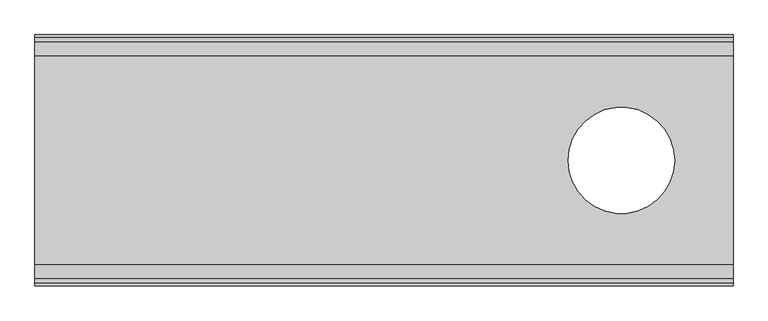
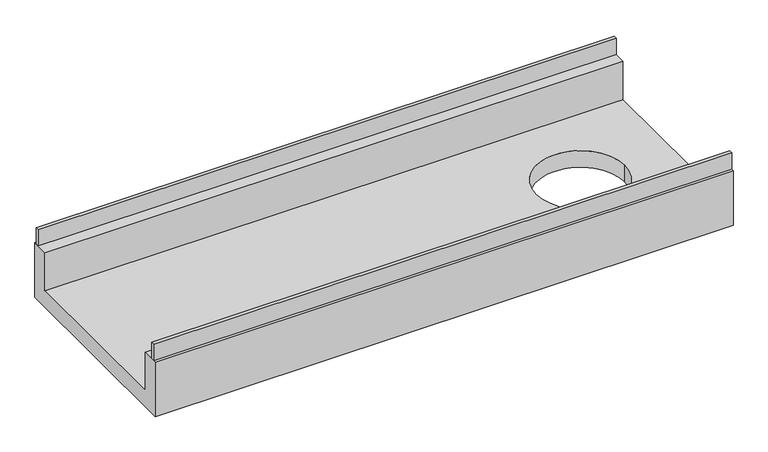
"""IFC4 building model written with IfcOpenShell, lengths in millimetres: sanitary terminal geometry, PF_ST_Slabdrain_H300K & H300KS_channels_USA_ACO : H300KS-13 Constant Depth Channel with SS edge rail."""

from ifc_helpers import new_model, si_unit, frame, origin, place, context, project, spatial, polyline, circle_curve, outline, extrude, source, transform, mapped, element, save
from ifc_brep_helpers import plane_surface, revolved_surface, advanced_brep


def sanitary_terminal_bc41e0c3(model_context):
    return source(origin(), model_context, "Body", "SolidModel", [
        advanced_brep(
        [(-605.6176554, 180.0, -30.0), (-605.6176554, 150.0, -30.0), (-605.6176554, 150.0, -100.0), (-605.6176554, -150.0, -100.0), (-605.6176554, -150.0, -30.0), (-605.6176554, -180.0, -30.0), (-605.6176554, -180.0, -130.0), (-605.6176554, 180.0, -130.0), (-1605.6176554, 180.0, -30.0), (-1605.6176554, 180.0, -130.0), (-1605.6176554, -180.0, -130.0), (-1605.6176554, -180.0, -30.0), (-1605.6176554, -150.0, -30.0), (-1605.6176554, -150.0, -100.0), (-1605.6176554, 150.0, -100.0), (-1605.6176554, 150.0, -30.0), (-841.8176554, 0.0, -130.0), (-689.4176554, 0.0, -130.0), (-689.4176554, 0.0, -100.0), (-841.8176554, 0.0, -100.0)],
        [
            (0, 1),
            (1, 2),
            (2, 3),
            (3, 4),
            (4, 5),
            (5, 6),
            (6, 7),
            (7, 0),
            (8, 9),
            (9, 10),
            (10, 11),
            (11, 12),
            (12, 13),
            (13, 14),
            (14, 15),
            (15, 8),
            (0, 8),
            (15, 1),
            (4, 12),
            (11, 5),
            (10, 6),
            (9, 7),
            (16, 17, circle_curve(frame((-765.6176554, 0.0, -130.0), z_axis=(0.0, 0.0, 1.0), x_axis=(1.0, 0.0, 0.0)), 76.2)),
            (17, 16, circle_curve(frame((-765.6176554, 0.0, -130.0), z_axis=(0.0, 0.0, 1.0), x_axis=(1.0, 0.0, 0.0)), 76.2)),
            (14, 2),
            (13, 3),
            (18, 19, circle_curve(frame((-765.6176554, 0.0, -100.0), z_axis=(0.0, 0.0, -1.0), x_axis=(1.0, 0.0, 0.0)), 76.2)),
            (19, 18, circle_curve(frame((-765.6176554, 0.0, -100.0), z_axis=(0.0, 0.0, -1.0), x_axis=(1.0, 0.0, 0.0)), 76.2)),
            (18, 17),
            (16, 19),
        ],
        [
            plane_surface(frame((-605.6176554, 0.0, -72.5), z_axis=(1.0, 0.0, 0.0), x_axis=(0.0, -1.0, 0.0))),
            plane_surface(frame((-1605.6176554, 0.0, -72.5), z_axis=(-1.0, 0.0, 0.0), x_axis=(0.0, -1.0, 0.0))),
            plane_surface(frame((-1605.6176554, 165.0, -30.0), z_axis=(0.0, 0.0, 1.0), x_axis=(0.0, -1.0, 0.0))),
            plane_surface(frame((-1605.6176554, -165.0, -30.0), z_axis=(0.0, 0.0, 1.0), x_axis=(0.0, -1.0, 0.0))),
            plane_surface(frame((-1605.6176554, -180.0, -80.0), z_axis=(0.0, -1.0, 0.0), x_axis=(0.0, 0.0, -1.0))),
            plane_surface(frame((-1605.6176554, 0.0, -130.0), z_axis=(0.0, 0.0, -1.0), x_axis=(0.0, 1.0, 0.0))),
            plane_surface(frame((-1605.6176554, 180.0, -80.0), z_axis=(0.0, 1.0, 0.0), x_axis=(0.0, 0.0, 1.0))),
            plane_surface(frame((-1605.6176554, 150.0, -65.0), z_axis=(0.0, -1.0, 0.0), x_axis=(0.0, 0.0, -1.0))),
            plane_surface(frame((-1605.6176554, 0.0, -100.0), z_axis=(0.0, 0.0, 1.0), x_axis=(0.0, -1.0, 0.0))),
            plane_surface(frame((-1605.6176554, -150.0, -65.0), z_axis=(0.0, 1.0, 0.0), x_axis=(0.0, 0.0, 1.0))),
            revolved_surface(polyline([(-689.4176554, 0.0, -130.0), (-689.4176554, 0.0, -100.0)]), (-765.6176554, 0.0, 0.0), (0.0, 0.0, -1.0)),
        ],
        [
            (0, [[1, 2, 3, 4, 5, 6, 7, 8]]),
            (1, [[9, 10, 11, 12, 13, 14, 15, 16]]),
            (2, [[-1, 17, -16, 18]]),
            (3, [[-5, 19, -12, 20]]),
            (4, [[-6, -20, -11, 21]]),
            (5, [[-7, -21, -10, 22], [23, 24]]),
            (6, [[-8, -22, -9, -17]]),
            (7, [[-2, -18, -15, 25]]),
            (8, [[-3, -25, -14, 26], [27, 28]]),
            (9, [[-4, -26, -13, -19]]),
            (10, [[29, -23, 30, -27]]),
            (10, [[-29, -28, -30, -24]]),
        ],
    ),
        extrude(outline(polyline([(-605.6176554, 176.0), (-605.6176554, 170.0), (-1605.6176554, 170.0), (-1605.6176554, 176.0), (-605.6176554, 176.0)])), frame((0.0, 0.0, -30.0), z_axis=(0.0, 0.0, 1.0), x_axis=(1.0, 0.0, 0.0)), (0.0, 0.0, 1.0), 30.0),
        extrude(outline(polyline([(-605.6176554, -170.0), (-605.6176554, -176.0), (-1605.6176554, -176.0), (-1605.6176554, -170.0), (-605.6176554, -170.0)])), frame((0.0, 0.0, -30.0), z_axis=(0.0, 0.0, 1.0), x_axis=(1.0, 0.0, 0.0)), (0.0, 0.0, 1.0), 30.0),
    ])


if __name__ == "__main__":
    model = new_model("IFC4")
    model_context = context("Model", 3, world=origin())
    ifc_project = project(units=[si_unit("LENGTHUNIT", "METRE", prefix="MILLI")], contexts=[model_context])
    site = spatial("IfcSite", under=ifc_project)
    building = spatial("IfcBuilding", under=site)
    placement = place(None, origin())
    sanitary_terminal_shape = sanitary_terminal_bc41e0c3(model_context)
    element("IfcSanitaryTerminal", 1, ObjectType="PF_ST_Slabdrain_H300K & H300KS_channels_USA_ACO : H300KS-13 Constant Depth Channel with SS edge rail", at=placement, inside=building, context=model_context, shape_type="MappedRepresentation", body=[
        mapped(sanitary_terminal_shape, transform((0.0, 0.0, 0.0), x_axis=(1.0, 0.0, 0.0), y_axis=(0.0, 1.0, 0.0), z_axis=(0.0, 0.0, 1.0))),
    ])
    save(model, "model.ifc")
